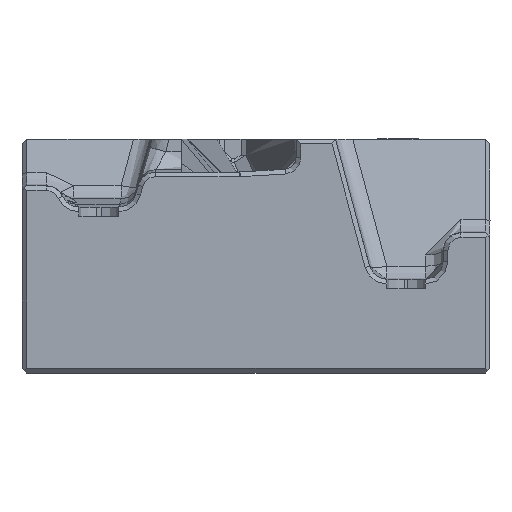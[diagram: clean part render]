
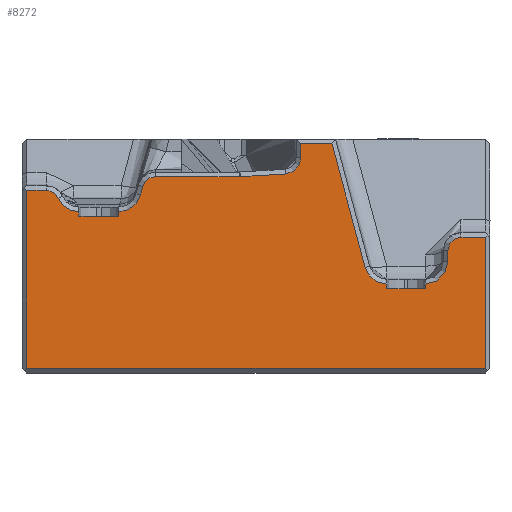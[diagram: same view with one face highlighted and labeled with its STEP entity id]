
A CAD part, left-side view. The second image highlights one B-rep face of the part: STEP entity #8272.
In plain terms, the highlighted planar face has unit normal (-1, 0, 0).
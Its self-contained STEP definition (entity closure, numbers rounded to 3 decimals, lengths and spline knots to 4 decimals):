
#480=CIRCLE('',#8845,0.24);
#481=CIRCLE('',#8846,0.14);
#482=CIRCLE('',#8847,0.14);
#483=CIRCLE('',#8848,0.24);
#484=CIRCLE('',#8849,0.24);
#485=CIRCLE('',#8850,0.175);
#486=CIRCLE('',#8851,0.3);
#487=CIRCLE('',#8852,0.14);
#488=CIRCLE('',#8853,0.24);
#883=LINE('',#13793,#1496);
#886=LINE('',#13799,#1499);
#887=LINE('',#13801,#1500);
#888=LINE('',#13807,#1501);
#889=LINE('',#13809,#1502);
#890=LINE('',#13811,#1503);
#891=LINE('',#13812,#1504);
#892=LINE('',#13816,#1505);
#893=LINE('',#13820,#1506);
#894=LINE('',#13822,#1507);
#895=LINE('',#13824,#1508);
#896=LINE('',#13828,#1509);
#897=LINE('',#13830,#1510);
#898=LINE('',#13832,#1511);
#899=LINE('',#13836,#1512);
#900=LINE('',#13840,#1513);
#901=LINE('',#13844,#1514);
#902=LINE('',#13847,#1515);
#1496=VECTOR('',#9745,0.3937);
#1499=VECTOR('',#9750,0.4261);
#1500=VECTOR('',#9751,0.3937);
#1501=VECTOR('',#9756,0.3937);
#1502=VECTOR('',#9757,1.9);
#1503=VECTOR('',#9758,4.9);
#1504=VECTOR('',#9759,1.4);
#1505=VECTOR('',#9762,0.3937);
#1506=VECTOR('',#9765,0.3937);
#1507=VECTOR('',#9766,0.4123);
#1508=VECTOR('',#9767,0.3937);
#1509=VECTOR('',#9770,0.3937);
#1510=VECTOR('',#9771,0.3315);
#1511=VECTOR('',#9772,0.3937);
#1512=VECTOR('',#9775,0.3937);
#1513=VECTOR('',#9778,0.3937);
#1514=VECTOR('',#9781,0.3937);
#1515=VECTOR('',#9784,0.3937);
#1980=PLANE('',#8844);
#2165=FACE_OUTER_BOUND('',#2684,.T.);
#2684=EDGE_LOOP('',(#5909,#5910,#5911,#5912,#5913,#5914,#5915,#5916,#5917,
#5918,#5919,#5920,#5921,#5922,#5923,#5924,#5925,#5926,#5927,#5928,#5929,
#5930,#5931,#5932,#5933,#5934,#5935));
#3722=VERTEX_POINT('',#13791);
#3723=VERTEX_POINT('',#13792);
#3724=VERTEX_POINT('',#13797);
#3725=VERTEX_POINT('',#13798);
#3726=VERTEX_POINT('',#13800);
#3727=VERTEX_POINT('',#13802);
#3728=VERTEX_POINT('',#13804);
#3729=VERTEX_POINT('',#13806);
#3730=VERTEX_POINT('',#13808);
#3731=VERTEX_POINT('',#13810);
#3732=VERTEX_POINT('',#13813);
#3733=VERTEX_POINT('',#13815);
#3734=VERTEX_POINT('',#13817);
#3735=VERTEX_POINT('',#13819);
#3736=VERTEX_POINT('',#13821);
#3737=VERTEX_POINT('',#13823);
#3738=VERTEX_POINT('',#13825);
#3739=VERTEX_POINT('',#13827);
#3740=VERTEX_POINT('',#13829);
#3741=VERTEX_POINT('',#13831);
#3742=VERTEX_POINT('',#13833);
#3743=VERTEX_POINT('',#13835);
#3744=VERTEX_POINT('',#13837);
#3745=VERTEX_POINT('',#13839);
#3746=VERTEX_POINT('',#13841);
#3747=VERTEX_POINT('',#13843);
#3748=VERTEX_POINT('',#13845);
#4542=EDGE_CURVE('',#3722,#3723,#883,.T.);
#4545=EDGE_CURVE('',#3724,#3725,#886,.T.);
#4546=EDGE_CURVE('',#3725,#3726,#887,.T.);
#4547=EDGE_CURVE('',#3726,#3727,#480,.T.);
#4548=EDGE_CURVE('',#3727,#3728,#481,.T.);
#4549=EDGE_CURVE('',#3728,#3729,#888,.T.);
#4550=EDGE_CURVE('',#3729,#3730,#889,.T.);
#4551=EDGE_CURVE('',#3731,#3730,#890,.T.);
#4552=EDGE_CURVE('',#3722,#3731,#891,.T.);
#4553=EDGE_CURVE('',#3723,#3732,#482,.T.);
#4554=EDGE_CURVE('',#3732,#3733,#892,.T.);
#4555=EDGE_CURVE('',#3733,#3734,#483,.T.);
#4556=EDGE_CURVE('',#3735,#3734,#893,.T.);
#4557=EDGE_CURVE('',#3735,#3736,#894,.T.);
#4558=EDGE_CURVE('',#3736,#3737,#895,.T.);
#4559=EDGE_CURVE('',#3737,#3738,#484,.T.);
#4560=EDGE_CURVE('',#3738,#3739,#896,.T.);
#4561=EDGE_CURVE('',#3740,#3739,#897,.T.);
#4562=EDGE_CURVE('',#3740,#3741,#898,.T.);
#4563=EDGE_CURVE('',#3741,#3742,#485,.T.);
#4564=EDGE_CURVE('',#3742,#3743,#899,.T.);
#4565=EDGE_CURVE('',#3743,#3744,#486,.T.);
#4566=EDGE_CURVE('',#3744,#3745,#900,.T.);
#4567=EDGE_CURVE('',#3745,#3746,#487,.T.);
#4568=EDGE_CURVE('',#3746,#3747,#901,.T.);
#4569=EDGE_CURVE('',#3747,#3748,#488,.T.);
#4570=EDGE_CURVE('',#3724,#3748,#902,.T.);
#5909=ORIENTED_EDGE('',*,*,#4545,.T.);
#5910=ORIENTED_EDGE('',*,*,#4546,.T.);
#5911=ORIENTED_EDGE('',*,*,#4547,.T.);
#5912=ORIENTED_EDGE('',*,*,#4548,.T.);
#5913=ORIENTED_EDGE('',*,*,#4549,.T.);
#5914=ORIENTED_EDGE('',*,*,#4550,.T.);
#5915=ORIENTED_EDGE('',*,*,#4551,.F.);
#5916=ORIENTED_EDGE('',*,*,#4552,.F.);
#5917=ORIENTED_EDGE('',*,*,#4542,.T.);
#5918=ORIENTED_EDGE('',*,*,#4553,.T.);
#5919=ORIENTED_EDGE('',*,*,#4554,.T.);
#5920=ORIENTED_EDGE('',*,*,#4555,.T.);
#5921=ORIENTED_EDGE('',*,*,#4556,.F.);
#5922=ORIENTED_EDGE('',*,*,#4557,.T.);
#5923=ORIENTED_EDGE('',*,*,#4558,.T.);
#5924=ORIENTED_EDGE('',*,*,#4559,.T.);
#5925=ORIENTED_EDGE('',*,*,#4560,.T.);
#5926=ORIENTED_EDGE('',*,*,#4561,.F.);
#5927=ORIENTED_EDGE('',*,*,#4562,.T.);
#5928=ORIENTED_EDGE('',*,*,#4563,.T.);
#5929=ORIENTED_EDGE('',*,*,#4564,.T.);
#5930=ORIENTED_EDGE('',*,*,#4565,.T.);
#5931=ORIENTED_EDGE('',*,*,#4566,.T.);
#5932=ORIENTED_EDGE('',*,*,#4567,.T.);
#5933=ORIENTED_EDGE('',*,*,#4568,.T.);
#5934=ORIENTED_EDGE('',*,*,#4569,.T.);
#5935=ORIENTED_EDGE('',*,*,#4570,.F.);
#8272=ADVANCED_FACE('',(#2165),#1980,.T.);
#8844=AXIS2_PLACEMENT_3D('',#13796,#9748,#9749);
#8845=AXIS2_PLACEMENT_3D('',#13803,#9752,#9753);
#8846=AXIS2_PLACEMENT_3D('',#13805,#9754,#9755);
#8847=AXIS2_PLACEMENT_3D('',#13814,#9760,#9761);
#8848=AXIS2_PLACEMENT_3D('',#13818,#9763,#9764);
#8849=AXIS2_PLACEMENT_3D('',#13826,#9768,#9769);
#8850=AXIS2_PLACEMENT_3D('',#13834,#9773,#9774);
#8851=AXIS2_PLACEMENT_3D('',#13838,#9776,#9777);
#8852=AXIS2_PLACEMENT_3D('',#13842,#9779,#9780);
#8853=AXIS2_PLACEMENT_3D('',#13846,#9782,#9783);
#9745=DIRECTION('',(0.,1.,0.));
#9748=DIRECTION('center_axis',(-1.,0.,0.));
#9749=DIRECTION('ref_axis',(0.,-1.,0.));
#9750=DIRECTION('',(0.,1.,0.));
#9751=DIRECTION('',(0.,0.,1.));
#9752=DIRECTION('center_axis',(1.,0.,0.));
#9753=DIRECTION('ref_axis',(0.,0.,-1.));
#9754=DIRECTION('center_axis',(-1.,0.,0.));
#9755=DIRECTION('ref_axis',(0.,0.,-1.));
#9756=DIRECTION('',(0.,1.,0.));
#9757=DIRECTION('',(0.,0.,-1.));
#9758=DIRECTION('',(0.,1.,0.));
#9759=DIRECTION('',(0.,0.,-1.));
#9760=DIRECTION('center_axis',(-1.,0.,0.));
#9761=DIRECTION('ref_axis',(0.,0.,-1.));
#9762=DIRECTION('',(0.,0.,-1.));
#9763=DIRECTION('center_axis',(1.,0.,0.));
#9764=DIRECTION('ref_axis',(0.,-1.,0.));
#9765=DIRECTION('',(0.,0.,1.));
#9766=DIRECTION('',(0.,1.,0.));
#9767=DIRECTION('',(0.,0.,1.));
#9768=DIRECTION('center_axis',(1.,0.,0.));
#9769=DIRECTION('ref_axis',(0.,0.,-1.));
#9770=DIRECTION('',(0.,0.259,0.966));
#9771=DIRECTION('',(0.,-1.,0.));
#9772=DIRECTION('',(0.,0.,-1.));
#9773=DIRECTION('center_axis',(1.,0.,0.));
#9774=DIRECTION('ref_axis',(0.,0.,-1.));
#9775=DIRECTION('',(0.,0.998,-0.059));
#9776=DIRECTION('center_axis',(1.,0.,0.));
#9777=DIRECTION('ref_axis',(0.,0.,-1.));
#9778=DIRECTION('',(0.,1.,0.));
#9779=DIRECTION('center_axis',(-1.,0.,0.));
#9780=DIRECTION('ref_axis',(0.,0.,-1.));
#9781=DIRECTION('',(0.,0.259,-0.966));
#9782=DIRECTION('center_axis',(1.,0.,0.));
#9783=DIRECTION('ref_axis',(0.,-0.966,-0.259));
#9784=DIRECTION('',(0.,0.,1.));
#13791=CARTESIAN_POINT('',(-33.2,-1.95,-1.05));
#13792=CARTESIAN_POINT('',(-33.2,-1.69,-1.05));
#13793=CARTESIAN_POINT('',(-33.2,0.5775,-1.05));
#13796=CARTESIAN_POINT('Origin',(-33.2,3.,0.));
#13797=CARTESIAN_POINT('',(-33.2,1.9658,-0.8276));
#13798=CARTESIAN_POINT('',(-33.2,2.3919,-0.8276));
#13799=CARTESIAN_POINT('',(-33.2,1.9658,-0.8276));
#13800=CARTESIAN_POINT('',(-33.2,2.3919,-0.7776));
#13801=CARTESIAN_POINT('',(-33.2,2.3919,-0.3638));
#13802=CARTESIAN_POINT('',(-33.2,2.6117,-0.6339));
#13803=CARTESIAN_POINT('Origin',(-33.2,2.3919,-0.5376));
#13804=CARTESIAN_POINT('',(-33.2,2.74,-0.55));
#13805=CARTESIAN_POINT('Origin',(-33.2,2.74,-0.69));
#13806=CARTESIAN_POINT('',(-33.2,2.95,-0.55));
#13807=CARTESIAN_POINT('',(-33.2,2.935,-0.55));
#13808=CARTESIAN_POINT('',(-33.2,2.95,-2.45));
#13809=CARTESIAN_POINT('',(-33.2,2.95,-0.55));
#13810=CARTESIAN_POINT('',(-33.2,-1.95,-2.45));
#13811=CARTESIAN_POINT('',(-33.2,-1.95,-2.45));
#13812=CARTESIAN_POINT('',(-33.2,-1.95,-1.05));
#13813=CARTESIAN_POINT('',(-33.2,-1.55,-1.19));
#13814=CARTESIAN_POINT('Origin',(-33.2,-1.69,-1.19));
#13815=CARTESIAN_POINT('',(-33.2,-1.55,-1.31));
#13816=CARTESIAN_POINT('',(-33.2,-1.55,-0.625));
#13817=CARTESIAN_POINT('',(-33.2,-1.31,-1.55));
#13818=CARTESIAN_POINT('Origin',(-33.2,-1.31,-1.31));
#13819=CARTESIAN_POINT('',(-33.2,-1.31,-1.6));
#13820=CARTESIAN_POINT('',(-33.2,-1.31,-0.75));
#13821=CARTESIAN_POINT('',(-33.2,-0.8977,-1.6));
#13822=CARTESIAN_POINT('',(-33.2,-1.31,-1.6));
#13823=CARTESIAN_POINT('',(-33.2,-0.8977,-1.55));
#13824=CARTESIAN_POINT('',(-33.2,-0.8977,-0.75));
#13825=CARTESIAN_POINT('',(-33.2,-0.6659,-1.3721));
#13826=CARTESIAN_POINT('Origin',(-33.2,-0.8977,-1.31));
#13827=CARTESIAN_POINT('',(-33.2,-0.3116,-0.05));
#13828=CARTESIAN_POINT('',(-33.2,-0.2805,0.066));
#13829=CARTESIAN_POINT('',(-33.2,0.0198,-0.05));
#13830=CARTESIAN_POINT('',(-33.2,0.0198,-0.05));
#13831=CARTESIAN_POINT('',(-33.2,0.0198,-0.199));
#13832=CARTESIAN_POINT('',(-33.2,0.0198,-0.0497));
#13833=CARTESIAN_POINT('',(-33.2,0.1844,-0.3737));
#13834=CARTESIAN_POINT('Origin',(-33.2,0.1948,-0.199));
#13835=CARTESIAN_POINT('',(-33.2,0.662,-0.4021));
#13836=CARTESIAN_POINT('',(-33.2,1.6955,-0.4637));
#13837=CARTESIAN_POINT('',(-33.2,0.6798,-0.4026));
#13838=CARTESIAN_POINT('Origin',(-33.2,0.6798,-0.1026));
#13839=CARTESIAN_POINT('',(-33.2,1.5737,-0.4026));
#13840=CARTESIAN_POINT('',(-33.2,2.0634,-0.4026));
#13841=CARTESIAN_POINT('',(-33.2,1.7089,-0.5064));
#13842=CARTESIAN_POINT('Origin',(-33.2,1.5737,-0.5426));
#13843=CARTESIAN_POINT('',(-33.2,1.7339,-0.5997));
#13844=CARTESIAN_POINT('',(-33.2,1.6951,-0.4549));
#13845=CARTESIAN_POINT('',(-33.2,1.9658,-0.7776));
#13846=CARTESIAN_POINT('Origin',(-33.2,1.9658,-0.5376));
#13847=CARTESIAN_POINT('',(-33.2,1.9658,-0.3638));
